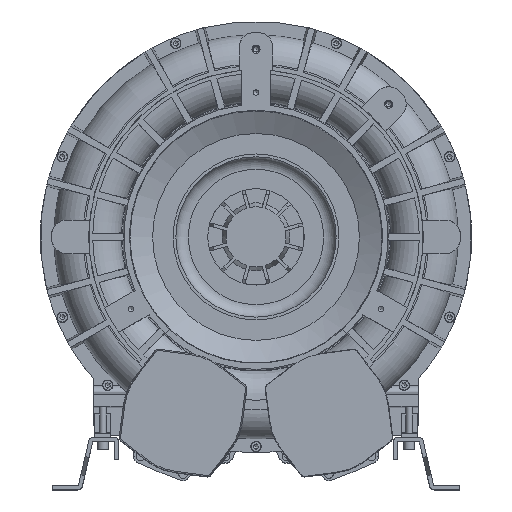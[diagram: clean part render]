
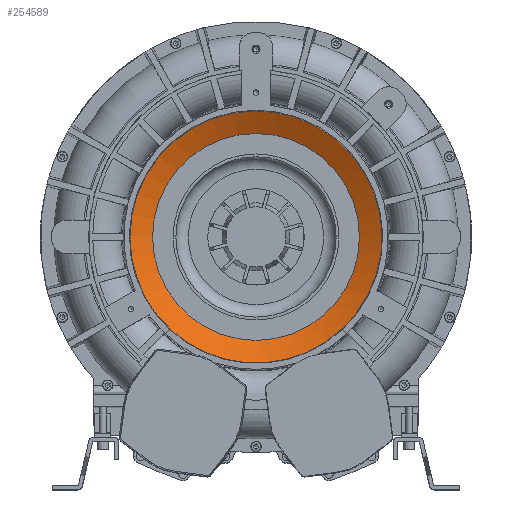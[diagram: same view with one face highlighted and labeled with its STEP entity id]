
A CAD part, top view. The second image highlights one B-rep face of the part: STEP entity #254589.
In plain terms, the highlighted conical face has half-angle 62 degrees and reference radius 129.023 mm.
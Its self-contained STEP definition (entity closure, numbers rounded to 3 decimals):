
#17515 = CARTESIAN_POINT ( 'NONE',  ( -157.217, 0., 230.491 ) ) ;
#35607 = FACE_OUTER_BOUND ( 'NONE', #219176, .T. ) ;
#38709 = DIRECTION ( 'NONE',  ( -1., 0., 0. ) ) ;
#60611 = DIRECTION ( 'NONE',  ( 0., 0., 1. ) ) ;
#72889 = AXIS2_PLACEMENT_3D ( 'NONE', #100342, #60611, #38709 ) ;
#78042 = CARTESIAN_POINT ( 'NONE',  ( 0., 0., 215.5 ) ) ;
#79135 = CARTESIAN_POINT ( 'NONE',  ( -129.023, 0., 215.5 ) ) ;
#80734 = DIRECTION ( 'NONE',  ( 1., 0., 0. ) ) ;
#81528 = DIRECTION ( 'NONE',  ( -1., 0., 0. ) ) ;
#84211 = CARTESIAN_POINT ( 'NONE',  ( 0., 0., 230.491 ) ) ;
#100342 = CARTESIAN_POINT ( 'NONE',  ( 0., 0., 215.5 ) ) ;
#109801 = AXIS2_PLACEMENT_3D ( 'NONE', #78042, #117764, #80734 ) ;
#117764 = DIRECTION ( 'NONE',  ( 0., 0., 1. ) ) ;
#173179 = CIRCLE ( 'NONE', #238855, 157.217 ) ;
#177840 = CIRCLE ( 'NONE', #72889, 129.023 ) ;
#208714 = ORIENTED_EDGE ( 'NONE', *, *, #239457, .F. ) ;
#219176 = EDGE_LOOP ( 'NONE', ( #208714 ) ) ;
#222868 = VERTEX_POINT ( 'NONE', #17515 ) ;
#227811 = CONICAL_SURFACE ( 'NONE', #109801, 129.023, 1.082 ) ;
#238855 = AXIS2_PLACEMENT_3D ( 'NONE', #84211, #253970, #81528 ) ;
#239457 = EDGE_CURVE ( 'NONE', #222868, #222868, #173179, .T. ) ;
#240847 = EDGE_LOOP ( 'NONE', ( #256612 ) ) ;
#241071 = EDGE_CURVE ( 'NONE', #266694, #266694, #177840, .T. ) ;
#253970 = DIRECTION ( 'NONE',  ( 0., 0., -1. ) ) ;
#254589 = ADVANCED_FACE ( 'NONE', ( #35607, #264252 ), #227811, .F. ) ;
#256612 = ORIENTED_EDGE ( 'NONE', *, *, #241071, .F. ) ;
#264252 = FACE_BOUND ( 'NONE', #240847, .T. ) ;
#266694 = VERTEX_POINT ( 'NONE', #79135 ) ;
